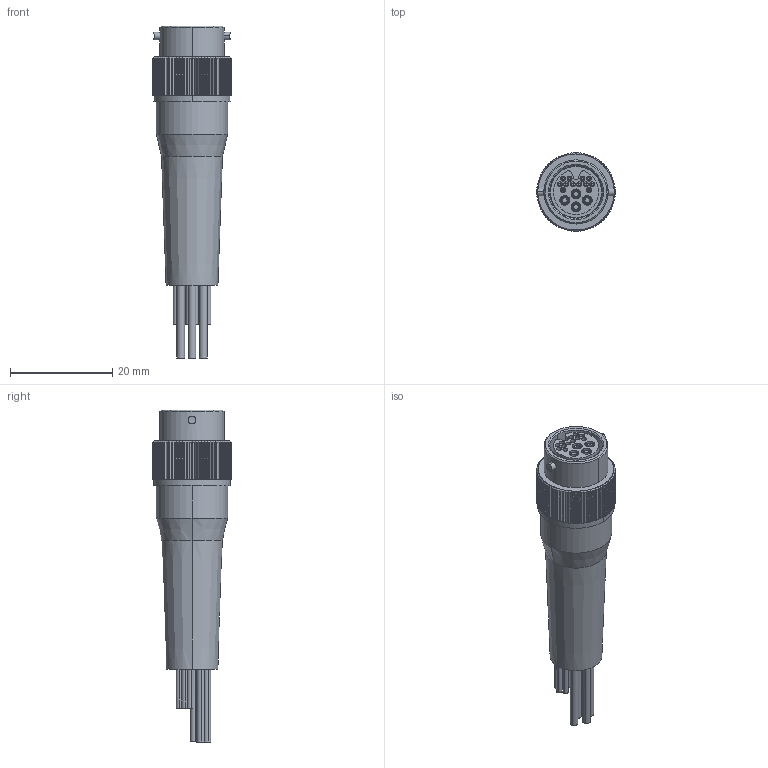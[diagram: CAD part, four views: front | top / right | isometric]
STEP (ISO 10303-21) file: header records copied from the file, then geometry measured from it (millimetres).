
FILE_DESCRIPTION (( 'STEP AP214' ), '1' );
FILE_NAME ('A90166-001 REV B.STEP', '2018-01-25T17:10:59', ( '' ), ( '' ), 'SwSTEP 2.0', 'SolidWorks 2017', '' );
FILE_SCHEMA (( 'AUTOMOTIVE_DESIGN' ));
Length unit declared in the file: inch
Products named in the file (1): A90166-001 REV_A
Bounding box: 15.39 x 15.39 x 65.06 mm (x, y, z)
Volume: 5132.3 mm3; surface area: 6662.4 mm2
Topology: 1 solids, 2 shells, 736 faces, 1816 edges, 1144 vertices
Faces by surface type: plane 378, cylinder 234, cone 112, torus 6, bspline 4, sphere 2
Entity records: 22755 total; most frequent: CARTESIAN_POINT 5105, DIRECTION 3778, ORIENTED_EDGE 3632, EDGE_CURVE 1816, AXIS2_PLACEMENT_3D 1444, VERTEX_POINT 1144, VECTOR 890, LINE 890
